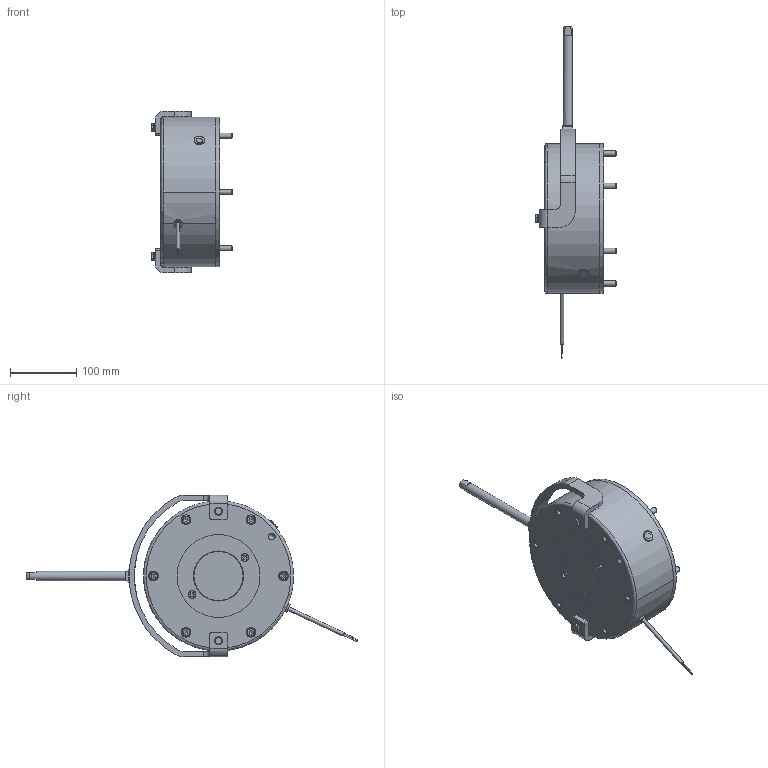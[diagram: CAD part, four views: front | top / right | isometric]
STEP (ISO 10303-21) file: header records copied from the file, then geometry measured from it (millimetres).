
FILE_DESCRIPTION(/* description */ (''),/* implementation_level */ '2;1');
FILE_NAME(/* name */ 'C:\SapWorkDir\Inventor\IP1\ConvertTempPath\5028819_IPT_000.ipt.stp',/* time_stamp */ '2020-09-18T14:41:03+02:00',/* author */ ('STRATE'),/* organization */ (''),/* preprocessor_version */ 'ST-DEVELOPER v17',/* originating_system */ 'Autodesk Inventor 2018',/* authorisation */ '');
FILE_SCHEMA (('AUTOMOTIVE_DESIGN { 1 0 10303 214 3 1 1 }'));
Length unit declared in the file: millimetre
Products named in the file (1): 5028819
Bounding box: 121.7 x 500.12 x 243 mm (x, y, z)
Volume: 3067392.9 mm3; surface area: 474117 mm2
Topology: 5 solids, 5 shells, 749 faces, 2028 edges, 1377 vertices
Faces by surface type: cylinder 383, plane 210, cone 116, torus 37, bspline 3
Full cylindrical faces by diameter (mm): 0.01 x1, 1 x2, 1.85 x2, 5.3 x1, 6 x3, 6.4 x2, 7 x1, 7.3 x2, 7.5 x2, 7.6 x1, 8 x6, 8.2 x6, 8.3 x3, 8.376 x1, 8.7 x6, 8.9 x2, 9 x6, 9.8 x2, 10 x7, 11 x2, 11.8 x2, 11.835 x2, 12 x2, 12.5 x6, 13 x6, 13.2 x1, 13.9 x6, 14 x1, 15 x6, 16 x1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
Entity records: 26000 total; most frequent: CARTESIAN_POINT 5830, DIRECTION 4154, ORIENTED_EDGE 4046, EDGE_CURVE 2023, AXIS2_PLACEMENT_3D 1746, VERTEX_POINT 1377, CIRCLE 999, EDGE_LOOP 902
